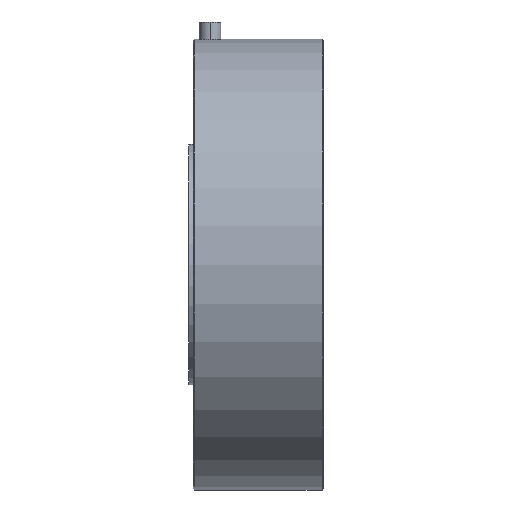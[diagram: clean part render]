
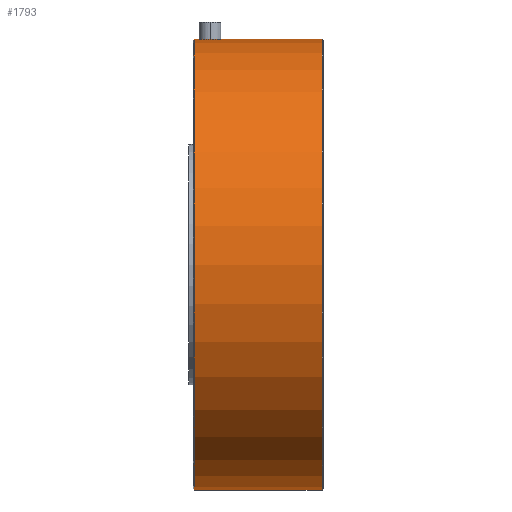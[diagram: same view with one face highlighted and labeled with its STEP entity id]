
A CAD part, left-side view. The second image highlights one B-rep face of the part: STEP entity #1793.
In plain terms, the highlighted cylindrical face has radius 330.2 mm (diameter 660.4 mm), a partial arc.
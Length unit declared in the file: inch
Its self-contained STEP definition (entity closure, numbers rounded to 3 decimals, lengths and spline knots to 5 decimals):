
#150 = EDGE_LOOP ( 'NONE', ( #1862, #1916, #1896, #1911 ) ) ;
#402 = EDGE_CURVE ( 'NONE', #2065, #2082, #3822, .T. ) ;
#404 = EDGE_CURVE ( 'NONE', #2066, #2089, #3827, .T. ) ;
#554 = EDGE_CURVE ( 'NONE', #2065, #2089, #4372, .T. ) ;
#608 = EDGE_CURVE ( 'NONE', #2082, #2066, #4394, .T. ) ;
#926 = AXIS2_PLACEMENT_3D ( 'NONE', #4096, #4060, #4061 ) ;
#938 = AXIS2_PLACEMENT_3D ( 'NONE', #4078, #4054, #4062 ) ;
#1793 = ADVANCED_FACE ( 'NONE', ( #2925 ), #2926, .T. ) ;
#1862 = ORIENTED_EDGE ( 'NONE', *, *, #554, .F. ) ;
#1896 = ORIENTED_EDGE ( 'NONE', *, *, #608, .T. ) ;
#1911 = ORIENTED_EDGE ( 'NONE', *, *, #404, .T. ) ;
#1916 = ORIENTED_EDGE ( 'NONE', *, *, #402, .T. ) ;
#2065 = VERTEX_POINT ( 'NONE', #2891 ) ;
#2066 = VERTEX_POINT ( 'NONE', #2876 ) ;
#2082 = VERTEX_POINT ( 'NONE', #2880 ) ;
#2089 = VERTEX_POINT ( 'NONE', #2914 ) ;
#2658 = CARTESIAN_POINT ( 'NONE',  ( 0., 7.75, 0. ) ) ;
#2659 = DIRECTION ( 'NONE',  ( 0., -1., 0. ) ) ;
#2660 = DIRECTION ( 'NONE',  ( 0., 0., -1. ) ) ;
#2876 = CARTESIAN_POINT ( 'NONE',  ( 0., 0.061, -13. ) ) ;
#2880 = CARTESIAN_POINT ( 'NONE',  ( 0., 7.439, -13. ) ) ;
#2891 = CARTESIAN_POINT ( 'NONE',  ( 0., 7.439, 13. ) ) ;
#2914 = CARTESIAN_POINT ( 'NONE',  ( 0., 0.061, 13. ) ) ;
#2925 = FACE_OUTER_BOUND ( 'NONE', #150, .T. ) ;
#2926 = CYLINDRICAL_SURFACE ( 'NONE', #5322, 13. ) ;
#3822 = CIRCLE ( 'NONE', #938, 13. ) ;
#3827 = CIRCLE ( 'NONE', #926, 13. ) ;
#4054 = DIRECTION ( 'NONE',  ( 0., -1., 0. ) ) ;
#4060 = DIRECTION ( 'NONE',  ( 0., 1., 0. ) ) ;
#4061 = DIRECTION ( 'NONE',  ( 0., 0., 1. ) ) ;
#4062 = DIRECTION ( 'NONE',  ( 0., 0., 1. ) ) ;
#4078 = CARTESIAN_POINT ( 'NONE',  ( 0., 7.439, 0. ) ) ;
#4096 = CARTESIAN_POINT ( 'NONE',  ( 0., 0.061, 0. ) ) ;
#4369 = VECTOR ( 'NONE', #4649, 39.37008 ) ;
#4372 = LINE ( 'NONE', #4666, #4369 ) ;
#4394 = LINE ( 'NONE', #4809, #4439 ) ;
#4439 = VECTOR ( 'NONE', #4785, 39.37008 ) ;
#4649 = DIRECTION ( 'NONE',  ( 0., -1., 0. ) ) ;
#4666 = CARTESIAN_POINT ( 'NONE',  ( 0., 7.75, 13. ) ) ;
#4785 = DIRECTION ( 'NONE',  ( 0., -1., 0. ) ) ;
#4809 = CARTESIAN_POINT ( 'NONE',  ( 0., 7.75, -13. ) ) ;
#5322 = AXIS2_PLACEMENT_3D ( 'NONE', #2658, #2659, #2660 ) ;
